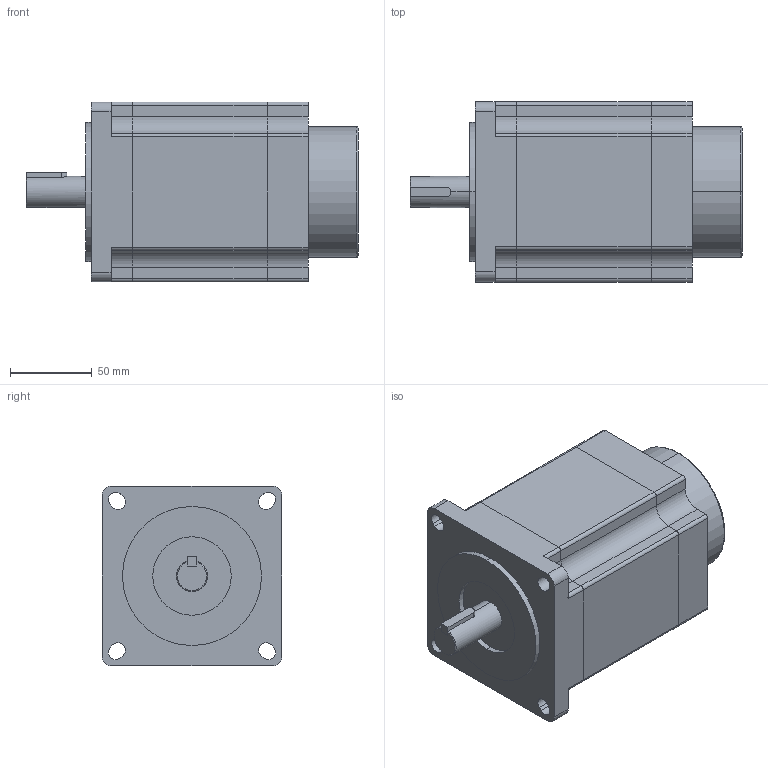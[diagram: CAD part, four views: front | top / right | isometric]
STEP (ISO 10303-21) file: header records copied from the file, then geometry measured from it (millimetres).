
FILE_DESCRIPTION (( 'STEP AP203' ), '1' );
FILE_NAME ('TM4201C50A-P1000.STEP', '2019-02-22T02:56:11', ( 'User' ), ( 'www.dadighost.com' ), 'SwSTEP 2.0', 'SolidWorks 2014', '' );
FILE_SCHEMA (( 'CONFIG_CONTROL_DESIGN' ));
Length unit declared in the file: millimetre
Products named in the file (1): TM4201C50A-P1000
Bounding box: 203 x 110 x 110 mm (x, y, z)
Volume: 1607438 mm3; surface area: 135184.4 mm2
Topology: 4 solids, 4 shells, 133 faces, 359 edges, 238 vertices
Faces by surface type: plane 66, cylinder 63, torus 2, cone 2
Entity records: 4328 total; most frequent: CARTESIAN_POINT 769, DIRECTION 753, ORIENTED_EDGE 718, EDGE_CURVE 359, AXIS2_PLACEMENT_3D 264, VERTEX_POINT 238, LINE 225, VECTOR 225
